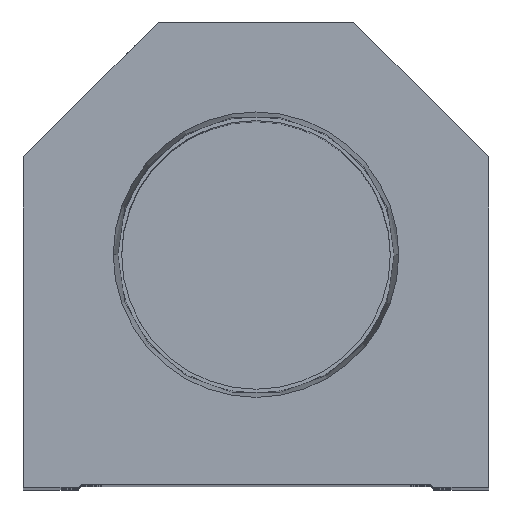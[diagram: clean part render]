
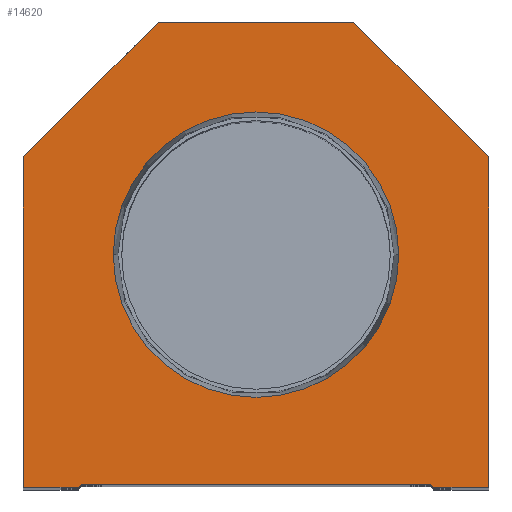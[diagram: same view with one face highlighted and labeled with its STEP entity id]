
A CAD part, top view. The second image highlights one B-rep face of the part: STEP entity #14620.
In plain terms, the highlighted planar face has unit normal (0, 0, 1).
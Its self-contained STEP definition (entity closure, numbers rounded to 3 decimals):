
#238 = EDGE_CURVE ( 'NONE', #17407, #1922, #748, .T. ) ;
#355 = LINE ( 'NONE', #14504, #6714 ) ;
#657 = CARTESIAN_POINT ( 'NONE',  ( 0., 0., 0. ) ) ;
#687 = EDGE_CURVE ( 'NONE', #12236, #13808, #355, .T. ) ;
#748 = LINE ( 'NONE', #11708, #14957 ) ;
#1087 = CARTESIAN_POINT ( 'NONE',  ( 0., 38.1, 0. ) ) ;
#1156 = LINE ( 'NONE', #7541, #8062 ) ;
#1176 = EDGE_CURVE ( 'NONE', #7559, #17407, #14754, .T. ) ;
#1456 = DIRECTION ( 'NONE',  ( 1., 0., 0. ) ) ;
#1477 = DIRECTION ( 'NONE',  ( 0., 0., 1. ) ) ;
#1558 = VECTOR ( 'NONE', #5589, 1000. ) ;
#1624 = CARTESIAN_POINT ( 'NONE',  ( 14.55, 14.55, 0. ) ) ;
#1788 = ORIENTED_EDGE ( 'NONE', *, *, #1176, .T. ) ;
#1922 = VERTEX_POINT ( 'NONE', #4025 ) ;
#2046 = ORIENTED_EDGE ( 'NONE', *, *, #5493, .T. ) ;
#2812 = CIRCLE ( 'NONE', #6514, 23.374 ) ;
#2813 = AXIS2_PLACEMENT_3D ( 'NONE', #1087, #8846, #7478 ) ;
#2941 = CARTESIAN_POINT ( 'NONE',  ( -38.1, 54.1, 0. ) ) ;
#2984 = VERTEX_POINT ( 'NONE', #4497 ) ;
#3242 = CARTESIAN_POINT ( 'NONE',  ( -28.6, 0.5, 0. ) ) ;
#3688 = LINE ( 'NONE', #8473, #14555 ) ;
#3902 = LINE ( 'NONE', #6941, #1558 ) ;
#3995 = DIRECTION ( 'NONE',  ( 0., 1., 0. ) ) ;
#4025 = CARTESIAN_POINT ( 'NONE',  ( 28.6, 0.5, 0. ) ) ;
#4219 = VECTOR ( 'NONE', #5973, 1000. ) ;
#4313 = DIRECTION ( 'NONE',  ( 0., 0., 1. ) ) ;
#4497 = CARTESIAN_POINT ( 'NONE',  ( 38.1, 0., 0. ) ) ;
#4717 = ORIENTED_EDGE ( 'NONE', *, *, #18197, .T. ) ;
#5315 = ORIENTED_EDGE ( 'NONE', *, *, #6182, .T. ) ;
#5410 = CARTESIAN_POINT ( 'NONE',  ( -38.1, 0., 0. ) ) ;
#5493 = EDGE_CURVE ( 'NONE', #17310, #7559, #7519, .T. ) ;
#5589 = DIRECTION ( 'NONE',  ( -0.707, 0.707, 0. ) ) ;
#5627 = ORIENTED_EDGE ( 'NONE', *, *, #8749, .T. ) ;
#5855 = ORIENTED_EDGE ( 'NONE', *, *, #13901, .T. ) ;
#5973 = DIRECTION ( 'NONE',  ( 1., 0., 0. ) ) ;
#6082 = CARTESIAN_POINT ( 'NONE',  ( -23.374, 38.1, 0. ) ) ;
#6182 = EDGE_CURVE ( 'NONE', #13163, #12236, #3902, .T. ) ;
#6263 = VERTEX_POINT ( 'NONE', #2941 ) ;
#6428 = DIRECTION ( 'NONE',  ( 1., 0., 0. ) ) ;
#6514 = AXIS2_PLACEMENT_3D ( 'NONE', #6634, #1477, #6428 ) ;
#6634 = CARTESIAN_POINT ( 'NONE',  ( 0., 38.1, 0. ) ) ;
#6714 = VECTOR ( 'NONE', #11330, 1000. ) ;
#6858 = CIRCLE ( 'NONE', #2813, 23.374 ) ;
#6941 = CARTESIAN_POINT ( 'NONE',  ( 38.1, 54.1, 0. ) ) ;
#7213 = CARTESIAN_POINT ( 'NONE',  ( -38.1, 0., 0. ) ) ;
#7320 = EDGE_CURVE ( 'NONE', #16230, #7605, #6858, .T. ) ;
#7478 = DIRECTION ( 'NONE',  ( 1., 0., 0. ) ) ;
#7519 = LINE ( 'NONE', #20156, #4219 ) ;
#7541 = CARTESIAN_POINT ( 'NONE',  ( -38.1, 54.1, 0. ) ) ;
#7559 = VERTEX_POINT ( 'NONE', #15570 ) ;
#7605 = VERTEX_POINT ( 'NONE', #6082 ) ;
#8062 = VECTOR ( 'NONE', #13870, 1000. ) ;
#8185 = CARTESIAN_POINT ( 'NONE',  ( -16., 76.2, 0. ) ) ;
#8213 = LINE ( 'NONE', #1624, #19790 ) ;
#8274 = DIRECTION ( 'NONE',  ( 1., 0., 0. ) ) ;
#8473 = CARTESIAN_POINT ( 'NONE',  ( 28.6, 0., 0. ) ) ;
#8749 = EDGE_CURVE ( 'NONE', #1922, #14821, #8213, .T. ) ;
#8846 = DIRECTION ( 'NONE',  ( 0., 0., 1. ) ) ;
#9336 = ORIENTED_EDGE ( 'NONE', *, *, #15952, .F. ) ;
#9782 = AXIS2_PLACEMENT_3D ( 'NONE', #657, #4313, #1456 ) ;
#9794 = DIRECTION ( 'NONE',  ( 0.707, -0.707, 0. ) ) ;
#10301 = DIRECTION ( 'NONE',  ( 0., -1., 0. ) ) ;
#10765 = CARTESIAN_POINT ( 'NONE',  ( 38.1, 0., 0. ) ) ;
#10845 = CARTESIAN_POINT ( 'NONE',  ( 23.374, 38.1, 0. ) ) ;
#11068 = EDGE_CURVE ( 'NONE', #14821, #2984, #3688, .T. ) ;
#11330 = DIRECTION ( 'NONE',  ( -1., 0., 0. ) ) ;
#11390 = ORIENTED_EDGE ( 'NONE', *, *, #13529, .T. ) ;
#11645 = VECTOR ( 'NONE', #3995, 1000. ) ;
#11708 = CARTESIAN_POINT ( 'NONE',  ( -28.6, 0.5, 0. ) ) ;
#12236 = VERTEX_POINT ( 'NONE', #13018 ) ;
#12316 = LINE ( 'NONE', #10765, #11645 ) ;
#13018 = CARTESIAN_POINT ( 'NONE',  ( 16., 76.2, 0. ) ) ;
#13163 = VERTEX_POINT ( 'NONE', #14256 ) ;
#13435 = CARTESIAN_POINT ( 'NONE',  ( 29.1, 0., 0. ) ) ;
#13529 = EDGE_CURVE ( 'NONE', #6263, #17310, #19310, .T. ) ;
#13594 = EDGE_LOOP ( 'NONE', ( #2046, #1788, #20399, #5627, #15924, #4717, #5315, #17941, #5855, #11390 ) ) ;
#13808 = VERTEX_POINT ( 'NONE', #8185 ) ;
#13870 = DIRECTION ( 'NONE',  ( -0.707, -0.707, 0. ) ) ;
#13901 = EDGE_CURVE ( 'NONE', #13808, #6263, #1156, .T. ) ;
#14256 = CARTESIAN_POINT ( 'NONE',  ( 38.1, 54.1, 0. ) ) ;
#14308 = EDGE_LOOP ( 'NONE', ( #16546, #9336 ) ) ;
#14436 = VECTOR ( 'NONE', #17848, 1000. ) ;
#14504 = CARTESIAN_POINT ( 'NONE',  ( 16., 76.2, 0. ) ) ;
#14555 = VECTOR ( 'NONE', #8274, 1000. ) ;
#14620 = ADVANCED_FACE ( 'NONE', ( #18185, #19573 ), #14886, .T. ) ;
#14754 = LINE ( 'NONE', #19636, #14436 ) ;
#14821 = VERTEX_POINT ( 'NONE', #13435 ) ;
#14886 = PLANE ( 'NONE',  #9782 ) ;
#14957 = VECTOR ( 'NONE', #16327, 1000. ) ;
#15570 = CARTESIAN_POINT ( 'NONE',  ( -29.1, 0., 0. ) ) ;
#15634 = VECTOR ( 'NONE', #10301, 1000. ) ;
#15924 = ORIENTED_EDGE ( 'NONE', *, *, #11068, .T. ) ;
#15952 = EDGE_CURVE ( 'NONE', #7605, #16230, #2812, .T. ) ;
#16230 = VERTEX_POINT ( 'NONE', #10845 ) ;
#16327 = DIRECTION ( 'NONE',  ( 1., 0., 0. ) ) ;
#16546 = ORIENTED_EDGE ( 'NONE', *, *, #7320, .F. ) ;
#17310 = VERTEX_POINT ( 'NONE', #7213 ) ;
#17407 = VERTEX_POINT ( 'NONE', #3242 ) ;
#17848 = DIRECTION ( 'NONE',  ( 0.707, 0.707, 0. ) ) ;
#17941 = ORIENTED_EDGE ( 'NONE', *, *, #687, .T. ) ;
#18185 = FACE_BOUND ( 'NONE', #14308, .T. ) ;
#18197 = EDGE_CURVE ( 'NONE', #2984, #13163, #12316, .T. ) ;
#19310 = LINE ( 'NONE', #5410, #15634 ) ;
#19573 = FACE_OUTER_BOUND ( 'NONE', #13594, .T. ) ;
#19636 = CARTESIAN_POINT ( 'NONE',  ( -14.55, 14.55, 0. ) ) ;
#19790 = VECTOR ( 'NONE', #9794, 1000. ) ;
#20156 = CARTESIAN_POINT ( 'NONE',  ( -28.6, 0., 0. ) ) ;
#20399 = ORIENTED_EDGE ( 'NONE', *, *, #238, .T. ) ;
